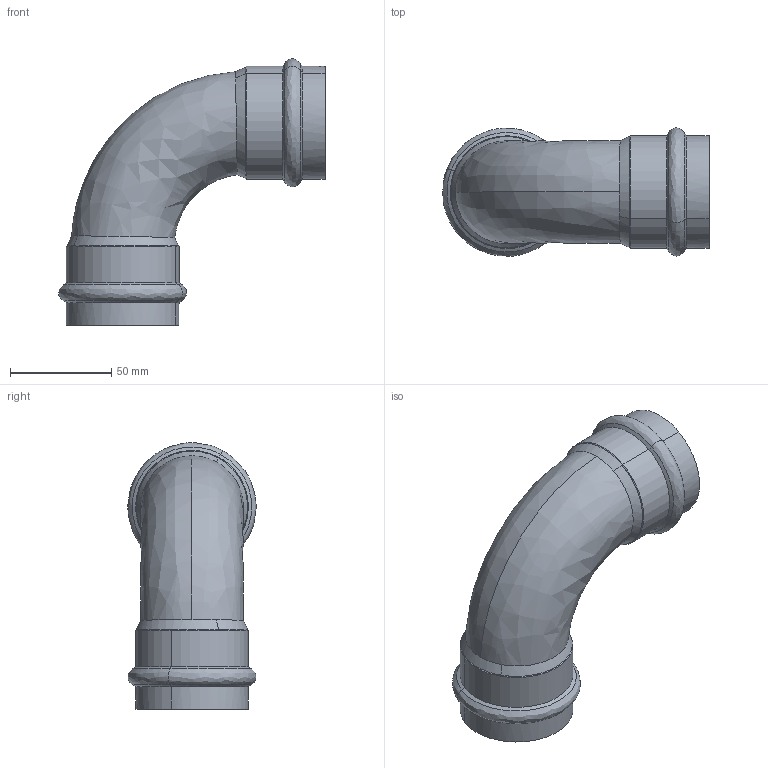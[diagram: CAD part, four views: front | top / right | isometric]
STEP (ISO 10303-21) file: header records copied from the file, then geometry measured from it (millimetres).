
FILE_DESCRIPTION(('STEP AP214'),'1');
FILE_NAME('pim0004433.stp','2015-04-30T05:14:26',('Cad-Pim'),('TransMagic, Inc.'),'TMR11sp0','TransMagic R11',' ');
FILE_SCHEMA(('AUTOMOTIVE_DESIGN'));
Length unit declared in the file: millimetre
Products named in the file (1): pim0004433
Bounding box: 131.49 x 63.31 x 131.66 mm (x, y, z)
Volume: 238126.3 mm3; surface area: 48100.8 mm2
Topology: 1 solids, 1 shells, 40 faces, 144 edges, 108 vertices
Faces by surface type: bspline 18, cylinder 12, cone 10
Entity records: 2538 total; most frequent: CARTESIAN_POINT 1091, ORIENTED_EDGE 288, DIRECTION 180, EDGE_CURVE 144, VERTEX_POINT 108, LINE 62, VECTOR 62, AXIS2_PLACEMENT_3D 59
